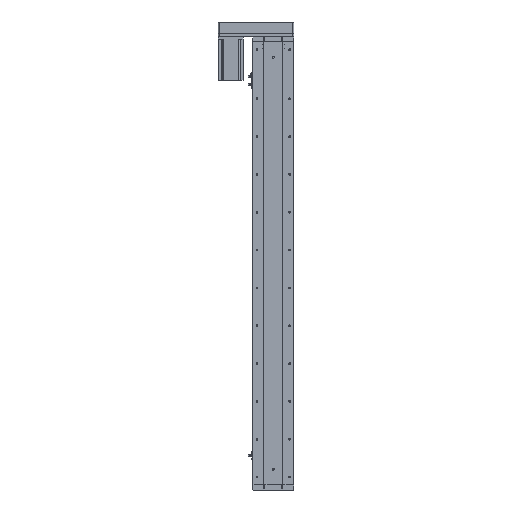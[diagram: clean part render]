
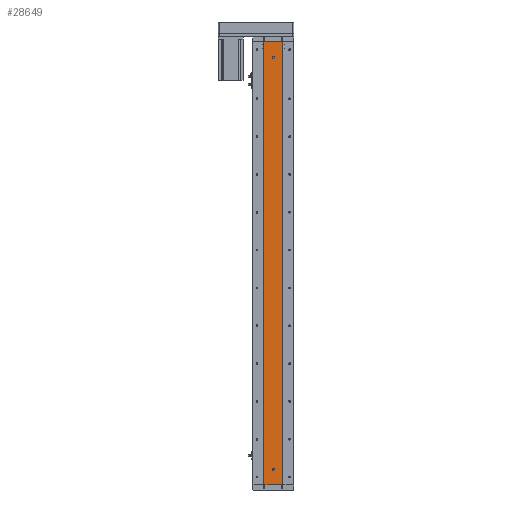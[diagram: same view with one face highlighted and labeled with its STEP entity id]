
A CAD part, left-side view. The second image highlights one B-rep face of the part: STEP entity #28649.
In plain terms, the highlighted planar face has unit normal (-1, 0, 0).
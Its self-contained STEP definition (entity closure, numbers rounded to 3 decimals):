
#225 = VERTEX_POINT ( 'NONE', #13189 ) ;
#2357 = CARTESIAN_POINT ( 'NONE',  ( -24.994, 0., 1356. ) ) ;
#2553 = PLANE ( 'NONE',  #15936 ) ;
#3470 = DIRECTION ( 'NONE',  ( 0., -1., 0. ) ) ;
#4260 = DIRECTION ( 'NONE',  ( 0., 0., -1. ) ) ;
#5273 = LINE ( 'NONE', #39194, #46373 ) ;
#6318 = DIRECTION ( 'NONE',  ( 0., 0., 1. ) ) ;
#10015 = FACE_OUTER_BOUND ( 'NONE', #17022, .T. ) ;
#10382 = DIRECTION ( 'NONE',  ( -1., 0., 0. ) ) ;
#10950 = CARTESIAN_POINT ( 'NONE',  ( -24.994, 29.785, 1406. ) ) ;
#11152 = CIRCLE ( 'NONE', #39445, 3. ) ;
#12536 = VERTEX_POINT ( 'NONE', #44232 ) ;
#12542 = AXIS2_PLACEMENT_3D ( 'NONE', #2357, #30212, #6318 ) ;
#13189 = CARTESIAN_POINT ( 'NONE',  ( -24.994, 0., 47. ) ) ;
#14094 = AXIS2_PLACEMENT_3D ( 'NONE', #23010, #50821, #27035 ) ;
#14322 = ORIENTED_EDGE ( 'NONE', *, *, #51425, .F. ) ;
#15936 = AXIS2_PLACEMENT_3D ( 'NONE', #42350, #18593, #46357 ) ;
#16217 = CARTESIAN_POINT ( 'NONE',  ( -24.994, -29.785, 0. ) ) ;
#17022 = EDGE_LOOP ( 'NONE', ( #37006, #39214, #22864, #28889 ) ) ;
#18218 = LINE ( 'NONE', #39187, #39313 ) ;
#18593 = DIRECTION ( 'NONE',  ( 1., 0., 0. ) ) ;
#19387 = FACE_BOUND ( 'NONE', #46623, .T. ) ;
#20760 = EDGE_CURVE ( 'NONE', #32535, #50552, #37013, .T. ) ;
#21241 = ORIENTED_EDGE ( 'NONE', *, *, #41901, .F. ) ;
#22594 = CARTESIAN_POINT ( 'NONE',  ( -24.994, 0., 1356. ) ) ;
#22864 = ORIENTED_EDGE ( 'NONE', *, *, #34817, .F. ) ;
#22981 = EDGE_LOOP ( 'NONE', ( #44516, #14322 ) ) ;
#23010 = CARTESIAN_POINT ( 'NONE',  ( -24.994, 0., 50. ) ) ;
#23399 = DIRECTION ( 'NONE',  ( 0., -1., 0. ) ) ;
#25001 = EDGE_CURVE ( 'NONE', #30622, #50552, #50654, .T. ) ;
#25959 = CIRCLE ( 'NONE', #12542, 3. ) ;
#26443 = VECTOR ( 'NONE', #3470, 1000. ) ;
#26593 = DIRECTION ( 'NONE',  ( 0., 0., 1. ) ) ;
#27035 = DIRECTION ( 'NONE',  ( 0., 0., 1. ) ) ;
#28649 = ADVANCED_FACE ( 'NONE', ( #51106, #19387, #10015 ), #2553, .F. ) ;
#28837 = CARTESIAN_POINT ( 'NONE',  ( -24.994, 29.785, 0. ) ) ;
#28889 = ORIENTED_EDGE ( 'NONE', *, *, #50041, .T. ) ;
#30212 = DIRECTION ( 'NONE',  ( -1., 0., 0. ) ) ;
#30389 = AXIS2_PLACEMENT_3D ( 'NONE', #34238, #10382, #38217 ) ;
#30622 = VERTEX_POINT ( 'NONE', #50206 ) ;
#31062 = DIRECTION ( 'NONE',  ( 0., 0., -1. ) ) ;
#32186 = EDGE_CURVE ( 'NONE', #47424, #12536, #11152, .T. ) ;
#32535 = VERTEX_POINT ( 'NONE', #28837 ) ;
#34238 = CARTESIAN_POINT ( 'NONE',  ( -24.994, 0., 50. ) ) ;
#34817 = EDGE_CURVE ( 'NONE', #48684, #30622, #5273, .T. ) ;
#37006 = ORIENTED_EDGE ( 'NONE', *, *, #20760, .T. ) ;
#37013 = LINE ( 'NONE', #47144, #26443 ) ;
#37647 = CARTESIAN_POINT ( 'NONE',  ( -24.994, 0., 53. ) ) ;
#38217 = DIRECTION ( 'NONE',  ( 0., 0., 1. ) ) ;
#39187 = CARTESIAN_POINT ( 'NONE',  ( -24.994, 29.785, 1406. ) ) ;
#39194 = CARTESIAN_POINT ( 'NONE',  ( -24.994, 29.785, 1406. ) ) ;
#39214 = ORIENTED_EDGE ( 'NONE', *, *, #25001, .F. ) ;
#39313 = VECTOR ( 'NONE', #31062, 1000. ) ;
#39445 = AXIS2_PLACEMENT_3D ( 'NONE', #22594, #50390, #26593 ) ;
#40040 = VECTOR ( 'NONE', #4260, 1000. ) ;
#41461 = CIRCLE ( 'NONE', #14094, 3. ) ;
#41901 = EDGE_CURVE ( 'NONE', #42399, #225, #48974, .T. ) ;
#42350 = CARTESIAN_POINT ( 'NONE',  ( -24.994, 29.785, 1406. ) ) ;
#42399 = VERTEX_POINT ( 'NONE', #37647 ) ;
#44232 = CARTESIAN_POINT ( 'NONE',  ( -24.994, 0., 1353. ) ) ;
#44516 = ORIENTED_EDGE ( 'NONE', *, *, #32186, .F. ) ;
#45287 = CARTESIAN_POINT ( 'NONE',  ( -24.994, 0., 1359. ) ) ;
#45452 = ORIENTED_EDGE ( 'NONE', *, *, #48112, .F. ) ;
#46357 = DIRECTION ( 'NONE',  ( 0., 0., -1. ) ) ;
#46373 = VECTOR ( 'NONE', #23399, 1000. ) ;
#46623 = EDGE_LOOP ( 'NONE', ( #21241, #45452 ) ) ;
#47144 = CARTESIAN_POINT ( 'NONE',  ( -24.994, 29.785, 0. ) ) ;
#47424 = VERTEX_POINT ( 'NONE', #45287 ) ;
#48112 = EDGE_CURVE ( 'NONE', #225, #42399, #41461, .T. ) ;
#48684 = VERTEX_POINT ( 'NONE', #10950 ) ;
#48974 = CIRCLE ( 'NONE', #30389, 3. ) ;
#50041 = EDGE_CURVE ( 'NONE', #48684, #32535, #18218, .T. ) ;
#50206 = CARTESIAN_POINT ( 'NONE',  ( -24.994, -29.785, 1406. ) ) ;
#50390 = DIRECTION ( 'NONE',  ( -1., 0., 0. ) ) ;
#50552 = VERTEX_POINT ( 'NONE', #16217 ) ;
#50654 = LINE ( 'NONE', #51062, #40040 ) ;
#50821 = DIRECTION ( 'NONE',  ( -1., 0., 0. ) ) ;
#51062 = CARTESIAN_POINT ( 'NONE',  ( -24.994, -29.785, 1406. ) ) ;
#51106 = FACE_BOUND ( 'NONE', #22981, .T. ) ;
#51425 = EDGE_CURVE ( 'NONE', #12536, #47424, #25959, .T. ) ;
